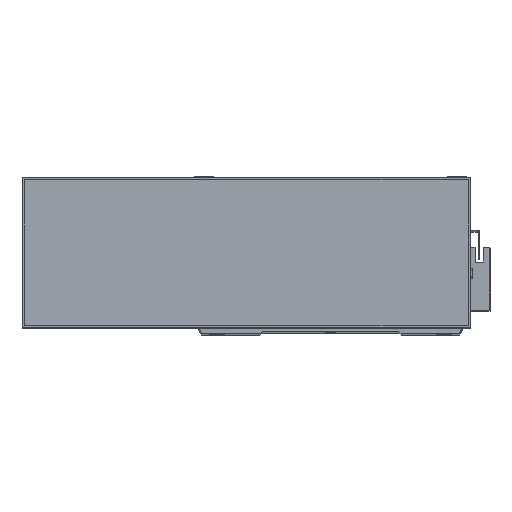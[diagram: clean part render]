
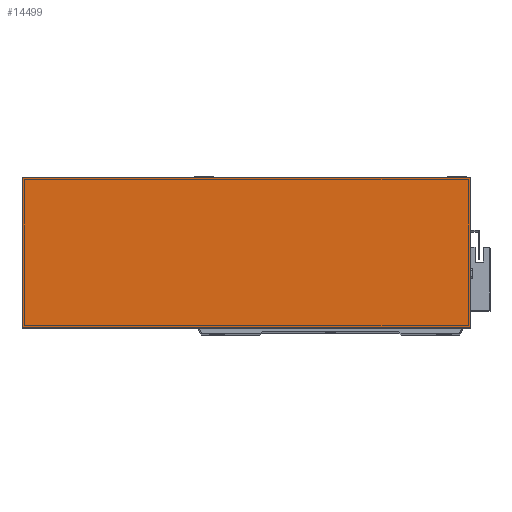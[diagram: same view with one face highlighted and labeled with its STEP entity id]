
A CAD part, top view. The second image highlights one B-rep face of the part: STEP entity #14499.
In plain terms, the highlighted planar face has unit normal (0, 0, 1).
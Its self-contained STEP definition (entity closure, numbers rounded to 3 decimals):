
#300 = VECTOR ( 'NONE', #8022, 1000. ) ;
#451 = CARTESIAN_POINT ( 'NONE',  ( 0., 0., 50. ) ) ;
#1424 = DIRECTION ( 'NONE',  ( -1., 0., 0. ) ) ;
#2076 = VECTOR ( 'NONE', #13518, 1000. ) ;
#2349 = FACE_OUTER_BOUND ( 'NONE', #6601, .T. ) ;
#2763 = LINE ( 'NONE', #17822, #2076 ) ;
#3913 = ORIENTED_EDGE ( 'NONE', *, *, #25532, .T. ) ;
#5857 = CARTESIAN_POINT ( 'NONE',  ( 0., 93., 50. ) ) ;
#6601 = EDGE_LOOP ( 'NONE', ( #22938, #8275, #9868, #3913 ) ) ;
#8022 = DIRECTION ( 'NONE',  ( -1., 0., 0. ) ) ;
#8041 = VECTOR ( 'NONE', #22899, 1000. ) ;
#8275 = ORIENTED_EDGE ( 'NONE', *, *, #9013, .T. ) ;
#8314 = VERTEX_POINT ( 'NONE', #21378 ) ;
#8767 = AXIS2_PLACEMENT_3D ( 'NONE', #27365, #14401, #1424 ) ;
#9013 = EDGE_CURVE ( 'NONE', #8314, #24216, #2763, .T. ) ;
#9868 = ORIENTED_EDGE ( 'NONE', *, *, #15894, .T. ) ;
#11810 = VECTOR ( 'NONE', #22139, 1000. ) ;
#13398 = VERTEX_POINT ( 'NONE', #16508 ) ;
#13482 = CARTESIAN_POINT ( 'NONE',  ( 277., 0., 50. ) ) ;
#13518 = DIRECTION ( 'NONE',  ( 1., 0., 0. ) ) ;
#13830 = EDGE_CURVE ( 'NONE', #25445, #8314, #17603, .T. ) ;
#14401 = DIRECTION ( 'NONE',  ( 0., 0., -1. ) ) ;
#14499 = ADVANCED_FACE ( 'NONE', ( #2349 ), #20889, .F. ) ;
#15894 = EDGE_CURVE ( 'NONE', #24216, #13398, #25343, .T. ) ;
#16508 = CARTESIAN_POINT ( 'NONE',  ( 277., 93., 50. ) ) ;
#17603 = LINE ( 'NONE', #451, #11810 ) ;
#17822 = CARTESIAN_POINT ( 'NONE',  ( 0., 0., 50. ) ) ;
#18447 = CARTESIAN_POINT ( 'NONE',  ( 277., 0., 50. ) ) ;
#18488 = CARTESIAN_POINT ( 'NONE',  ( 0., 93., 50. ) ) ;
#20889 = PLANE ( 'NONE',  #8767 ) ;
#21378 = CARTESIAN_POINT ( 'NONE',  ( 0., 0., 50. ) ) ;
#22139 = DIRECTION ( 'NONE',  ( 0., -1., 0. ) ) ;
#22693 = LINE ( 'NONE', #5857, #300 ) ;
#22899 = DIRECTION ( 'NONE',  ( 0., 1., 0. ) ) ;
#22938 = ORIENTED_EDGE ( 'NONE', *, *, #13830, .T. ) ;
#24216 = VERTEX_POINT ( 'NONE', #13482 ) ;
#25343 = LINE ( 'NONE', #18447, #8041 ) ;
#25445 = VERTEX_POINT ( 'NONE', #18488 ) ;
#25532 = EDGE_CURVE ( 'NONE', #13398, #25445, #22693, .T. ) ;
#27365 = CARTESIAN_POINT ( 'NONE',  ( 0., 0., 50. ) ) ;
